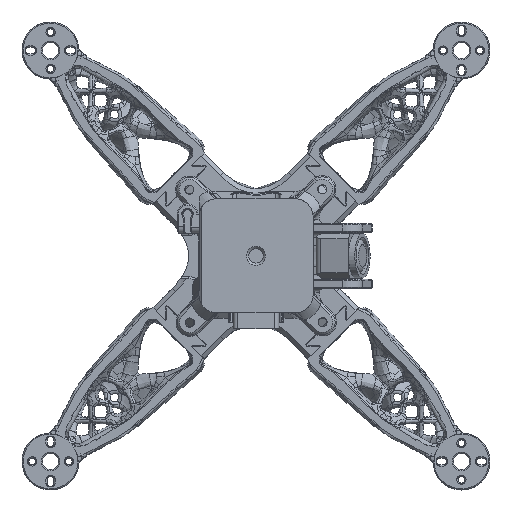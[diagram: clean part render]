
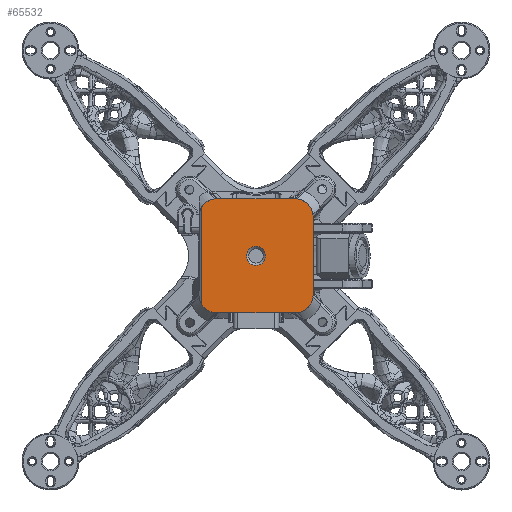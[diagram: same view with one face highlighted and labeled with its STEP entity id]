
A CAD part, top view. The second image highlights one B-rep face of the part: STEP entity #65532.
In plain terms, the highlighted planar face has unit normal (0, 0, 1).
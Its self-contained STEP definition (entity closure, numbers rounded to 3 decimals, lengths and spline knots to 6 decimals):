
#1381=PLANE('',#69008);
#5719=B_SPLINE_CURVE_WITH_KNOTS('',3,(#226223,#226224,#226225,#226226,#226227,
#226228,#226229,#226230,#226231,#226232,#226233,#226234,#226235,#226236,
#226237,#226238,#226239),.UNSPECIFIED.,.F.,.F.,(4,1,1,1,1,1,1,1,1,1,1,1,
1,1,4),(0.,0.125,0.1875,0.25,0.3125,0.375,0.4375,0.5,0.5625,0.625,0.6875,
0.75,0.8125,0.875,1.),.UNSPECIFIED.);
#5722=B_SPLINE_CURVE_WITH_KNOTS('',3,(#226281,#226282,#226283,#226284,#226285,
#226286,#226287,#226288,#226289,#226290,#226291,#226292,#226293,#226294),
 .UNSPECIFIED.,.F.,.F.,(4,3,1,1,1,1,1,1,1,4),(-0.03374,0.,0.125,
0.25,0.375,0.5,0.625,0.75,0.875,1.),.UNSPECIFIED.);
#5725=B_SPLINE_CURVE_WITH_KNOTS('',3,(#226322,#226323,#226324,#226325,#226326,
#226327,#226328,#226329,#226330,#226331,#226332,#226333,#226334,#226335,
#226336,#226337,#226338,#226339,#226340,#226341),.UNSPECIFIED.,.F.,.F.,
(4,3,1,1,1,1,1,1,1,1,1,1,1,1,1,4),(-0.000001,0.,0.125,0.1875,
0.25,0.3125,0.375,0.4375,0.5,0.5625,0.625,0.6875,0.75,0.8125,0.875,1.),
 .UNSPECIFIED.);
#5736=B_SPLINE_CURVE_WITH_KNOTS('',3,(#226429,#226430,#226431,#226432,#226433,
#226434,#226435,#226436,#226437,#226438,#226439,#226440,#226441,#226442,
#226443,#226444,#226445),.UNSPECIFIED.,.F.,.F.,(4,1,1,1,1,1,1,1,1,1,1,1,
1,1,4),(0.,0.125,0.1875,0.25,0.3125,0.375,0.4375,0.5,0.5625,0.625,0.6875,
0.75,0.8125,0.875,1.),.UNSPECIFIED.);
#12747=LINE('',#225160,#14927);
#12865=LINE('',#226472,#15045);
#12866=LINE('',#226474,#15046);
#12867=LINE('',#226483,#15047);
#14927=VECTOR('',#74720,1.);
#15045=VECTOR('',#74928,1.);
#15046=VECTOR('',#74931,1.);
#15047=VECTOR('',#74942,1.);
#28697=ORIENTED_EDGE('',*,*,#43025,.T.);
#28698=ORIENTED_EDGE('',*,*,#42987,.F.);
#28699=ORIENTED_EDGE('',*,*,#43026,.T.);
#28700=ORIENTED_EDGE('',*,*,#42991,.F.);
#28701=ORIENTED_EDGE('',*,*,#43022,.F.);
#28702=ORIENTED_EDGE('',*,*,#43017,.T.);
#28703=ORIENTED_EDGE('',*,*,#43021,.T.);
#28704=ORIENTED_EDGE('',*,*,#42983,.F.);
#28705=ORIENTED_EDGE('',*,*,#42782,.F.);
#42782=EDGE_CURVE('',#50779,#50780,#12747,.T.);
#42983=EDGE_CURVE('',#50780,#50938,#5719,.T.);
#42987=EDGE_CURVE('',#50939,#50779,#5722,.T.);
#42991=EDGE_CURVE('',#50941,#50942,#5725,.T.);
#43017=EDGE_CURVE('',#50953,#50952,#5736,.T.);
#43021=EDGE_CURVE('',#50952,#50938,#12865,.T.);
#43022=EDGE_CURVE('',#50953,#50941,#12866,.T.);
#43025=EDGE_CURVE('',#50956,#50956,#53811,.F.);
#43026=EDGE_CURVE('',#50939,#50942,#12867,.T.);
#50779=VERTEX_POINT('',#225159);
#50780=VERTEX_POINT('',#225161);
#50938=VERTEX_POINT('',#226240);
#50939=VERTEX_POINT('',#226280);
#50941=VERTEX_POINT('',#226342);
#50942=VERTEX_POINT('',#226343);
#50952=VERTEX_POINT('',#226428);
#50953=VERTEX_POINT('',#226446);
#50956=VERTEX_POINT('',#226482);
#53811=CIRCLE('',#69009,0.004175);
#56770=EDGE_LOOP('',(#28697));
#56771=EDGE_LOOP('',(#28698,#28699,#28700,#28701,#28702,#28703,#28704,#28705));
#61074=FACE_BOUND('',#56770,.T.);
#61075=FACE_BOUND('',#56771,.T.);
#65532=ADVANCED_FACE('',(#61074,#61075),#1381,.T.);
#69008=AXIS2_PLACEMENT_3D('',#226480,#74938,#74939);
#69009=AXIS2_PLACEMENT_3D('',#226481,#74940,#74941);
#74720=DIRECTION('',(1.,0.,0.));
#74928=DIRECTION('',(0.,1.,0.));
#74931=DIRECTION('',(-1.,0.,0.));
#74938=DIRECTION('',(0.,0.,1.));
#74939=DIRECTION('',(1.,0.,0.));
#74940=DIRECTION('',(0.,0.,1.));
#74941=DIRECTION('',(1.,0.,0.));
#74942=DIRECTION('',(-0.004,-1.,0.));
#225159=CARTESIAN_POINT('',(-0.017172,0.025,0.0383));
#225160=CARTESIAN_POINT('',(0.,0.025,0.0383));
#225161=CARTESIAN_POINT('',(0.017172,0.025,0.0383));
#226223=CARTESIAN_POINT('',(0.017172,0.025,0.0383));
#226224=CARTESIAN_POINT('',(0.017686,0.025,0.0383));
#226225=CARTESIAN_POINT('',(0.018453,0.024923,0.0383));
#226226=CARTESIAN_POINT('',(0.019446,0.024675,0.0383));
#226227=CARTESIAN_POINT('',(0.020172,0.024416,0.0383));
#226228=CARTESIAN_POINT('',(0.02087,0.024086,0.0383));
#226229=CARTESIAN_POINT('',(0.021528,0.023691,0.0383));
#226230=CARTESIAN_POINT('',(0.022144,0.023234,0.0383));
#226231=CARTESIAN_POINT('',(0.022716,0.022716,0.0383));
#226232=CARTESIAN_POINT('',(0.023234,0.022144,0.0383));
#226233=CARTESIAN_POINT('',(0.023691,0.021528,0.0383));
#226234=CARTESIAN_POINT('',(0.024086,0.02087,0.0383));
#226235=CARTESIAN_POINT('',(0.024416,0.020172,0.0383));
#226236=CARTESIAN_POINT('',(0.024675,0.019446,0.0383));
#226237=CARTESIAN_POINT('',(0.024923,0.018453,0.0383));
#226238=CARTESIAN_POINT('',(0.025,0.017686,0.0383));
#226239=CARTESIAN_POINT('',(0.025,0.017172,0.0383));
#226240=CARTESIAN_POINT('',(0.025,0.017172,0.0383));
#226280=CARTESIAN_POINT('',(-0.023852,0.021253,0.0383));
#226281=CARTESIAN_POINT('',(-0.024862,0.018677,0.0383));
#226282=CARTESIAN_POINT('',(-0.024834,0.018792,0.0383));
#226283=CARTESIAN_POINT('',(-0.024806,0.018906,0.0383));
#226284=CARTESIAN_POINT('',(-0.024778,0.019021,0.0383));
#226285=CARTESIAN_POINT('',(-0.024675,0.019445,0.0383));
#226286=CARTESIAN_POINT('',(-0.0244,0.02027,0.0383));
#226287=CARTESIAN_POINT('',(-0.023786,0.021427,0.0383));
#226288=CARTESIAN_POINT('',(-0.022989,0.022464,0.0383));
#226289=CARTESIAN_POINT('',(-0.022032,0.023355,0.0383));
#226290=CARTESIAN_POINT('',(-0.020939,0.024075,0.0383));
#226291=CARTESIAN_POINT('',(-0.019743,0.024604,0.0383));
#226292=CARTESIAN_POINT('',(-0.018474,0.024927,0.0383));
#226293=CARTESIAN_POINT('',(-0.017608,0.025,0.0383));
#226294=CARTESIAN_POINT('',(-0.017172,0.025,0.0383));
#226322=CARTESIAN_POINT('',(-0.017172,-0.025,0.0383));
#226323=CARTESIAN_POINT('',(-0.017172,-0.025,0.0383));
#226324=CARTESIAN_POINT('',(-0.017172,-0.025,0.0383));
#226325=CARTESIAN_POINT('',(-0.017172,-0.025,0.0383));
#226326=CARTESIAN_POINT('',(-0.017686,-0.025,0.0383));
#226327=CARTESIAN_POINT('',(-0.018453,-0.024923,0.0383));
#226328=CARTESIAN_POINT('',(-0.019446,-0.024675,0.0383));
#226329=CARTESIAN_POINT('',(-0.020172,-0.024416,0.0383));
#226330=CARTESIAN_POINT('',(-0.02087,-0.024086,0.0383));
#226331=CARTESIAN_POINT('',(-0.021528,-0.023691,0.0383));
#226332=CARTESIAN_POINT('',(-0.022144,-0.023234,0.0383));
#226333=CARTESIAN_POINT('',(-0.022716,-0.022716,0.0383));
#226334=CARTESIAN_POINT('',(-0.023234,-0.022144,0.0383));
#226335=CARTESIAN_POINT('',(-0.023691,-0.021528,0.0383));
#226336=CARTESIAN_POINT('',(-0.024086,-0.02087,0.0383));
#226337=CARTESIAN_POINT('',(-0.024416,-0.020172,0.0383));
#226338=CARTESIAN_POINT('',(-0.024675,-0.019446,0.0383));
#226339=CARTESIAN_POINT('',(-0.024923,-0.018453,0.0383));
#226340=CARTESIAN_POINT('',(-0.025,-0.017686,0.0383));
#226341=CARTESIAN_POINT('',(-0.025,-0.017172,0.0383));
#226342=CARTESIAN_POINT('',(-0.017172,-0.025,0.0383));
#226343=CARTESIAN_POINT('',(-0.024015,-0.020973,0.0383));
#226428=CARTESIAN_POINT('',(0.025,-0.017172,0.0383));
#226429=CARTESIAN_POINT('',(0.017172,-0.025,0.0383));
#226430=CARTESIAN_POINT('',(0.017686,-0.025,0.0383));
#226431=CARTESIAN_POINT('',(0.018453,-0.024923,0.0383));
#226432=CARTESIAN_POINT('',(0.019446,-0.024675,0.0383));
#226433=CARTESIAN_POINT('',(0.020172,-0.024416,0.0383));
#226434=CARTESIAN_POINT('',(0.02087,-0.024086,0.0383));
#226435=CARTESIAN_POINT('',(0.021527,-0.023691,0.0383));
#226436=CARTESIAN_POINT('',(0.022144,-0.023234,0.0383));
#226437=CARTESIAN_POINT('',(0.022716,-0.022716,0.0383));
#226438=CARTESIAN_POINT('',(0.023234,-0.022144,0.0383));
#226439=CARTESIAN_POINT('',(0.023691,-0.021528,0.0383));
#226440=CARTESIAN_POINT('',(0.024085,-0.02087,0.0383));
#226441=CARTESIAN_POINT('',(0.024416,-0.020172,0.0383));
#226442=CARTESIAN_POINT('',(0.024675,-0.019446,0.0383));
#226443=CARTESIAN_POINT('',(0.024923,-0.018453,0.0383));
#226444=CARTESIAN_POINT('',(0.025,-0.017686,0.0383));
#226445=CARTESIAN_POINT('',(0.025,-0.017172,0.0383));
#226446=CARTESIAN_POINT('',(0.017172,-0.025,0.0383));
#226472=CARTESIAN_POINT('',(0.025,0.,0.0383));
#226474=CARTESIAN_POINT('',(0.,-0.025,0.0383));
#226480=CARTESIAN_POINT('',(0.,0.,0.0383));
#226481=CARTESIAN_POINT('',(0.,0.,0.0383));
#226482=CARTESIAN_POINT('',(0.004175,0.,0.0383));
#226483=CARTESIAN_POINT('',(-0.023934,0.000092,0.0383));
